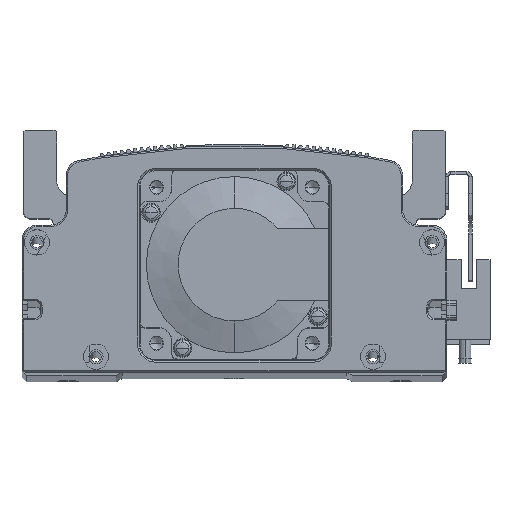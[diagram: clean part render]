
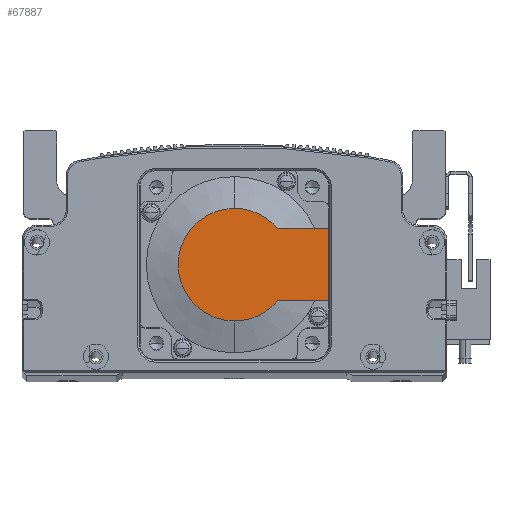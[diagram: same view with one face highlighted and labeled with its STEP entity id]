
A CAD part, top view. The second image highlights one B-rep face of the part: STEP entity #67887.
In plain terms, the highlighted planar face has unit normal (0, 0, 1) as drawn and (-1, 0, 0) by its records, which use the part's own axes.
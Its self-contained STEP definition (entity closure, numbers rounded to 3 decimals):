
#51 = AXIS2_PLACEMENT_3D ( 'NONE', #41567, #14266, #51521 ) ;
#2570 = CIRCLE ( 'NONE', #22355, 17.881 ) ;
#3875 = CARTESIAN_POINT ( 'NONE',  ( -118.5, -8.941, -11.45 ) ) ;
#5355 = ORIENTED_EDGE ( 'NONE', *, *, #35540, .T. ) ;
#8079 = DIRECTION ( 'NONE',  ( 0., 0., 1. ) ) ;
#8662 = CARTESIAN_POINT ( 'NONE',  ( -118.5, 30., 25. ) ) ;
#10582 = EDGE_CURVE ( 'NONE', #55449, #53060, #46272, .T. ) ;
#13955 = PLANE ( 'NONE',  #19568 ) ;
#14266 = DIRECTION ( 'NONE',  ( -1., 0., 0. ) ) ;
#14601 = CIRCLE ( 'NONE', #28634, 17.881 ) ;
#14701 = DIRECTION ( 'NONE',  ( -1., 0., 0. ) ) ;
#17051 = CARTESIAN_POINT ( 'NONE',  ( -118.5, 0., 11.45 ) ) ;
#17168 = VECTOR ( 'NONE', #19484, 1000. ) ;
#18426 = ORIENTED_EDGE ( 'NONE', *, *, #10582, .T. ) ;
#19125 = DIRECTION ( 'NONE',  ( -1., 0., 0. ) ) ;
#19484 = DIRECTION ( 'NONE',  ( 0., 0., 1. ) ) ;
#19568 = AXIS2_PLACEMENT_3D ( 'NONE', #61434, #19125, #8079 ) ;
#20107 = DIRECTION ( 'NONE',  ( 0., 0., -1. ) ) ;
#21628 = ORIENTED_EDGE ( 'NONE', *, *, #31241, .F. ) ;
#22031 = DIRECTION ( 'NONE',  ( 0., -1., 0. ) ) ;
#22355 = AXIS2_PLACEMENT_3D ( 'NONE', #47238, #14701, #20107 ) ;
#22484 = EDGE_CURVE ( 'NONE', #49557, #28702, #31298, .T. ) ;
#27833 = CARTESIAN_POINT ( 'NONE',  ( -118.5, 30., 11.45 ) ) ;
#28634 = AXIS2_PLACEMENT_3D ( 'NONE', #45565, #40349, #41034 ) ;
#28702 = VERTEX_POINT ( 'NONE', #52681 ) ;
#29380 = ORIENTED_EDGE ( 'NONE', *, *, #22484, .T. ) ;
#29689 = CARTESIAN_POINT ( 'NONE',  ( -118.5, 0., -17.881 ) ) ;
#30944 = CARTESIAN_POINT ( 'NONE',  ( -118.5, 30., -11.45 ) ) ;
#31241 = EDGE_CURVE ( 'NONE', #55449, #56605, #36584, .T. ) ;
#31298 = CIRCLE ( 'NONE', #51, 17.881 ) ;
#32253 = ORIENTED_EDGE ( 'NONE', *, *, #50772, .T. ) ;
#33216 = CARTESIAN_POINT ( 'NONE',  ( -118.5, 13.735, 11.45 ) ) ;
#33989 = EDGE_CURVE ( 'NONE', #56605, #39956, #51917, .T. ) ;
#35043 = FACE_OUTER_BOUND ( 'NONE', #48025, .T. ) ;
#35540 = EDGE_CURVE ( 'NONE', #28702, #39956, #14601, .T. ) ;
#36584 = LINE ( 'NONE', #8662, #17168 ) ;
#39956 = VERTEX_POINT ( 'NONE', #33216 ) ;
#40349 = DIRECTION ( 'NONE',  ( -1., 0., 0. ) ) ;
#41034 = DIRECTION ( 'NONE',  ( 0., 0., -1. ) ) ;
#41567 = CARTESIAN_POINT ( 'NONE',  ( -118.5, 0., 0. ) ) ;
#42626 = VECTOR ( 'NONE', #22031, 1000. ) ;
#45565 = CARTESIAN_POINT ( 'NONE',  ( -118.5, 0., 0. ) ) ;
#46272 = LINE ( 'NONE', #3875, #60703 ) ;
#47238 = CARTESIAN_POINT ( 'NONE',  ( -118.5, 0., 0. ) ) ;
#48025 = EDGE_LOOP ( 'NONE', ( #18426, #32253, #29380, #5355, #58295, #21628 ) ) ;
#49557 = VERTEX_POINT ( 'NONE', #29689 ) ;
#50772 = EDGE_CURVE ( 'NONE', #53060, #49557, #2570, .T. ) ;
#51521 = DIRECTION ( 'NONE',  ( 0., 0., -1. ) ) ;
#51917 = LINE ( 'NONE', #17051, #42626 ) ;
#52681 = CARTESIAN_POINT ( 'NONE',  ( -118.5, 0., 17.881 ) ) ;
#52906 = DIRECTION ( 'NONE',  ( 0., -1., 0. ) ) ;
#53060 = VERTEX_POINT ( 'NONE', #59347 ) ;
#55449 = VERTEX_POINT ( 'NONE', #30944 ) ;
#56605 = VERTEX_POINT ( 'NONE', #27833 ) ;
#58295 = ORIENTED_EDGE ( 'NONE', *, *, #33989, .F. ) ;
#59347 = CARTESIAN_POINT ( 'NONE',  ( -118.5, 13.735, -11.45 ) ) ;
#60703 = VECTOR ( 'NONE', #52906, 1000. ) ;
#61434 = CARTESIAN_POINT ( 'NONE',  ( -118.5, -8.941, 0. ) ) ;
#67887 = ADVANCED_FACE ( 'NONE', ( #35043 ), #13955, .T. ) ;
